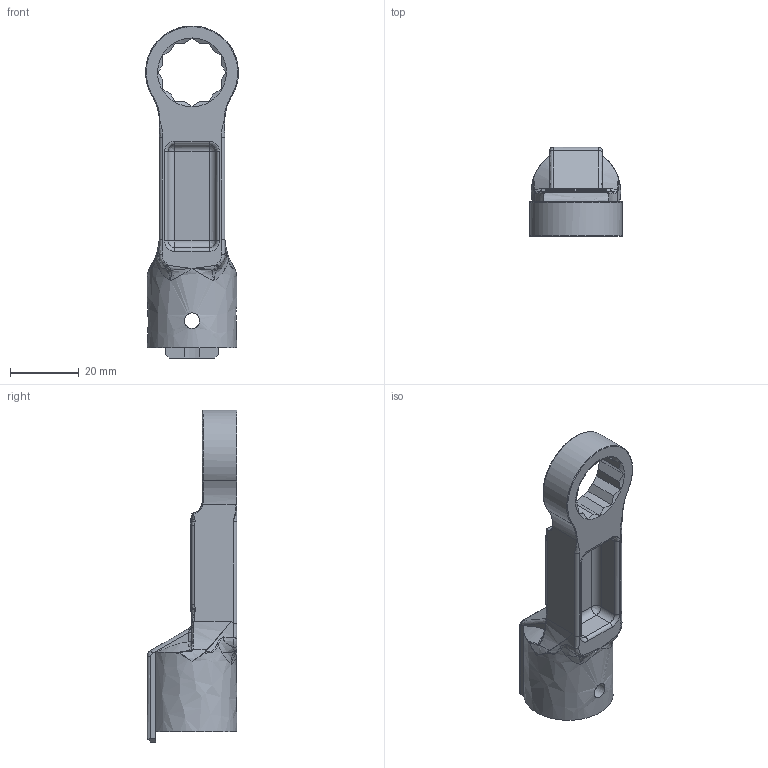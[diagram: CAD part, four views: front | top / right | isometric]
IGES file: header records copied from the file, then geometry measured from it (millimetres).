
Global section: file name: RH19DX17; native system: Autodesk Inventor 2016; preprocessor: unknown; author: q543; date: 20151110.164341; units: millimetre
Bounding box: 26.97 x 26 x 96.48 mm (x, y, z)
Volume: 17540.2 mm3; surface area: 9463.1 mm2
Topology: 1 solids, 1 shells, 225 faces, 563 edges, 318 vertices
Faces by surface type: bspline 225
